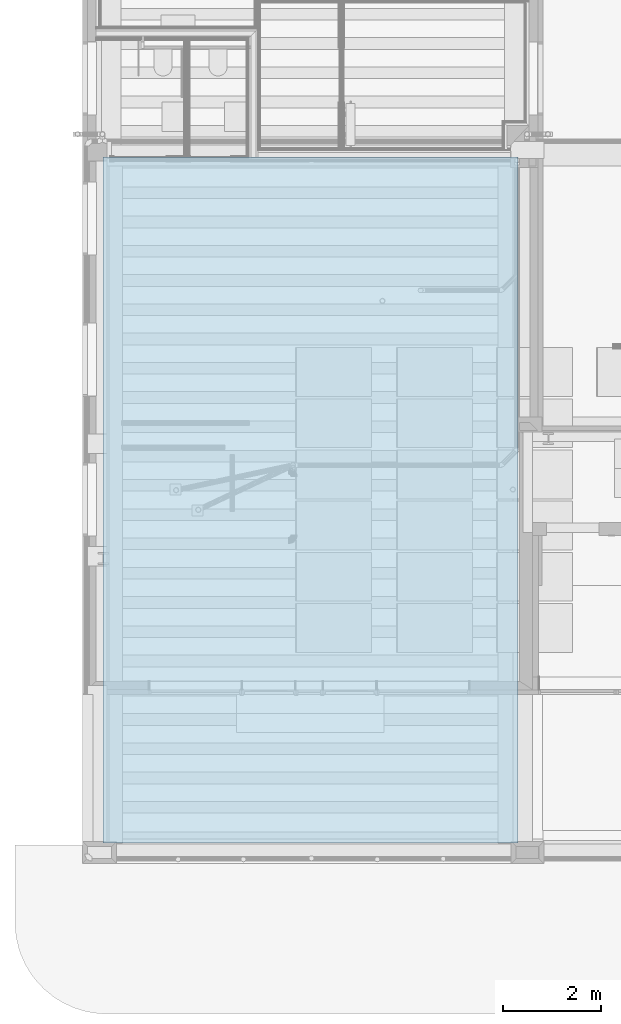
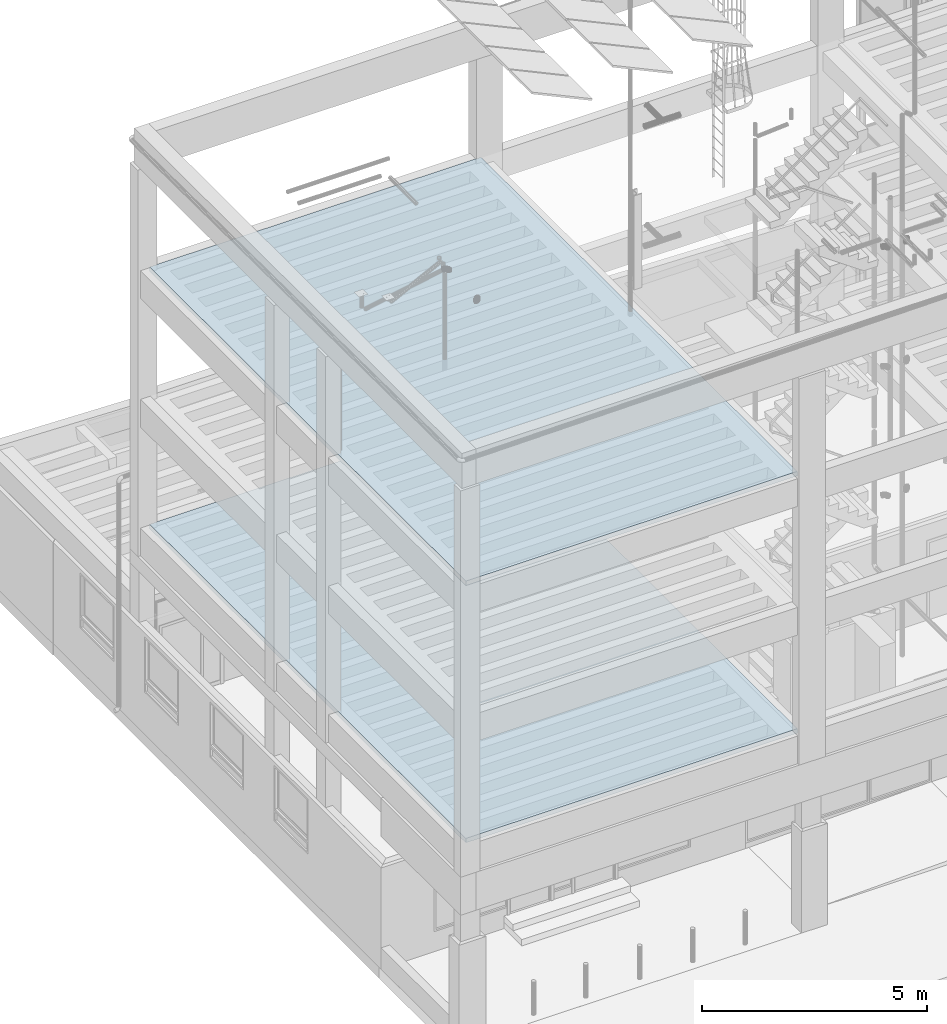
# One storey, part 15 of 108: 2 slabs.
"""IFC2X3 building model written with IfcOpenShell, lengths in metres."""

from ifc_helpers import new_model, entity, si_unit, converted_unit, derived_unit, money_unit, direction, origin_with_axes, place, context, subcontext, project, spatial, faceted_brep, material, type_object, element, save


model = new_model("IFC2X3")

# Units and contexts
model_context = context("Model", 3, precision=1e-05, world=origin_with_axes(), true_north=direction((0.0, 1.0)))
body_context = subcontext(model_context, "Body", "Model", "MODEL_VIEW", scale=1.0)
ifc_project = project(units=[si_unit("LENGTHUNIT", "METRE"), si_unit("AREAUNIT", "SQUARE_METRE"), si_unit("VOLUMEUNIT", "CUBIC_METRE"), si_unit("ABSORBEDDOSEUNIT", "GRAY"), si_unit("AMOUNTOFSUBSTANCEUNIT", "MOLE"), si_unit("DOSEEQUIVALENTUNIT", "SIEVERT"), si_unit("ELECTRICCAPACITANCEUNIT", "FARAD"), si_unit("ELECTRICCHARGEUNIT", "COULOMB"), si_unit("ELECTRICCONDUCTANCEUNIT", "SIEMENS"), si_unit("ELECTRICCURRENTUNIT", "AMPERE"), si_unit("ELECTRICRESISTANCEUNIT", "OHM"), si_unit("ELECTRICVOLTAGEUNIT", "VOLT"), si_unit("ENERGYUNIT", "JOULE"), si_unit("FORCEUNIT", "NEWTON"), si_unit("FREQUENCYUNIT", "HERTZ"), si_unit("ILLUMINANCEUNIT", "LUX"), si_unit("INDUCTANCEUNIT", "HENRY"), si_unit("LUMINOUSFLUXUNIT", "LUMEN"), si_unit("LUMINOUSINTENSITYUNIT", "CANDELA"), si_unit("MAGNETICFLUXDENSITYUNIT", "TESLA"), si_unit("MAGNETICFLUXUNIT", "WEBER"), si_unit("MASSUNIT", "GRAM"), converted_unit("PLANEANGLEUNIT", "degree", entity("IfcReal", 0.0174532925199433), si_unit("PLANEANGLEUNIT", "RADIAN"), dimensions=[0, 0, 0, 0, 0, 0, 0]), si_unit("POWERUNIT", "WATT"), si_unit("PRESSUREUNIT", "PASCAL"), si_unit("RADIOACTIVITYUNIT", "BECQUEREL"), si_unit("SOLIDANGLEUNIT", "STERADIAN"), si_unit("THERMODYNAMICTEMPERATUREUNIT", "KELVIN"), si_unit("TIMEUNIT", "SECOND"), derived_unit("ACCELERATIONUNIT", [(si_unit("LENGTHUNIT", "METRE"), 1), (si_unit("TIMEUNIT", "SECOND"), -2)]), derived_unit("ANGULARVELOCITYUNIT", [(converted_unit("PLANEANGLEUNIT", "degree", entity("IfcReal", 0.0174532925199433), si_unit("PLANEANGLEUNIT", "RADIAN"), dimensions=[0, 0, 0, 0, 0, 0, 0]), 1), (si_unit("TIMEUNIT", "SECOND"), -1)]), derived_unit("CURVATUREUNIT", [(converted_unit("PLANEANGLEUNIT", "degree", entity("IfcReal", 0.0174532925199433), si_unit("PLANEANGLEUNIT", "RADIAN"), dimensions=[0, 0, 0, 0, 0, 0, 0]), 1), (si_unit("LENGTHUNIT", "METRE"), -1)]), derived_unit("DYNAMICVISCOSITYUNIT", [(si_unit("PRESSUREUNIT", "PASCAL"), 1), (si_unit("TIMEUNIT", "SECOND"), 1)]), derived_unit("HEATFLUXDENSITYUNIT", [(si_unit("POWERUNIT", "WATT"), 1), (si_unit("LENGTHUNIT", "METRE"), -2)]), derived_unit("HEATINGVALUEUNIT", [(si_unit("ENERGYUNIT", "JOULE"), 1), (si_unit("MASSUNIT", "GRAM"), -1)]), derived_unit("INTEGERCOUNTRATEUNIT", [(si_unit("TIMEUNIT", "SECOND"), -1)]), derived_unit("IONCONCENTRATIONUNIT", [(si_unit("MASSUNIT", "GRAM"), 1), (si_unit("VOLUMEUNIT", "CUBIC_METRE"), -1)]), derived_unit("ISOTHERMALMOISTURECAPACITYUNIT", [(si_unit("VOLUMEUNIT", "CUBIC_METRE"), 1), (si_unit("MASSUNIT", "GRAM"), -1)]), derived_unit("KINEMATICVISCOSITYUNIT", [(si_unit("AREAUNIT", "SQUARE_METRE"), 1), (si_unit("TIMEUNIT", "SECOND"), -1)]), derived_unit("LINEARFORCEUNIT", [(si_unit("FORCEUNIT", "NEWTON"), 1), (si_unit("LENGTHUNIT", "METRE"), -1)]), derived_unit("LINEARMOMENTUNIT", [(si_unit("FORCEUNIT", "NEWTON"), 1), (si_unit("LENGTHUNIT", "METRE"), -1)]), derived_unit("LINEARSTIFFNESSUNIT", [(si_unit("FORCEUNIT", "NEWTON"), 1), (si_unit("LENGTHUNIT", "METRE"), -1)]), derived_unit("LINEARVELOCITYUNIT", [(si_unit("LENGTHUNIT", "METRE"), 1), (si_unit("TIMEUNIT", "SECOND"), -1)]), derived_unit("LUMINOUSINTENSITYDISTRIBUTIONUNIT", [(si_unit("LUMINOUSINTENSITYUNIT", "CANDELA"), 1), (si_unit("LUMINOUSFLUXUNIT", "LUMEN"), -1)]), derived_unit("MASSDENSITYUNIT", [(si_unit("MASSUNIT", "GRAM"), 1), (si_unit("VOLUMEUNIT", "CUBIC_METRE"), -1)]), derived_unit("MASSFLOWRATEUNIT", [(si_unit("MASSUNIT", "GRAM"), 1), (si_unit("TIMEUNIT", "SECOND"), -1)]), derived_unit("MASSPERLENGTHUNIT", [(si_unit("MASSUNIT", "GRAM"), 1), (si_unit("LENGTHUNIT", "METRE"), -1)]), derived_unit("MODULUSOFELASTICITYUNIT", [(si_unit("FORCEUNIT", "NEWTON"), 1), (si_unit("AREAUNIT", "SQUARE_METRE"), -1)]), derived_unit("MODULUSOFLINEARSUBGRADEREACTIONUNIT", [(si_unit("FORCEUNIT", "NEWTON"), 1), (si_unit("LENGTHUNIT", "METRE"), -2)]), derived_unit("MODULUSOFROTATIONALSUBGRADEREACTIONUNIT", [(si_unit("FORCEUNIT", "NEWTON"), 1), (si_unit("LENGTHUNIT", "METRE"), 1)]), derived_unit("MODULUSOFSUBGRADEREACTIONUNIT", [(si_unit("FORCEUNIT", "NEWTON"), 1), (si_unit("VOLUMEUNIT", "CUBIC_METRE"), -1)]), derived_unit("MOISTUREDIFFUSIVITYUNIT", [(si_unit("VOLUMEUNIT", "CUBIC_METRE"), 1), (si_unit("TIMEUNIT", "SECOND"), -1)]), derived_unit("MOLECULARWEIGHTUNIT", [(si_unit("MASSUNIT", "GRAM"), 1), (si_unit("AMOUNTOFSUBSTANCEUNIT", "MOLE"), -1)]), derived_unit("PLANARFORCEUNIT", [(si_unit("FORCEUNIT", "NEWTON"), 1), (si_unit("LENGTHUNIT", "METRE"), -2)]), derived_unit("ROTATIONALFREQUENCYUNIT", [(si_unit("TIMEUNIT", "SECOND"), -1)]), derived_unit("ROTATIONALMASSUNIT", [(si_unit("MASSUNIT", "GRAM"), 1), (si_unit("LENGTHUNIT", "METRE"), 2)]), derived_unit("ROTATIONALSTIFFNESSUNIT", [(si_unit("FORCEUNIT", "NEWTON"), 1), (si_unit("LENGTHUNIT", "METRE"), 1), (converted_unit("PLANEANGLEUNIT", "degree", entity("IfcReal", 0.0174532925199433), si_unit("PLANEANGLEUNIT", "RADIAN"), dimensions=[0, 0, 0, 0, 0, 0, 0]), -1)]), derived_unit("SECTIONAREAINTEGRALUNIT", [(si_unit("LENGTHUNIT", "METRE"), 5)]), derived_unit("SECTIONMODULUSUNIT", [(si_unit("LENGTHUNIT", "METRE"), 3)]), derived_unit("SHEARMODULUSUNIT", [(si_unit("FORCEUNIT", "NEWTON"), 1), (si_unit("AREAUNIT", "SQUARE_METRE"), -1)]), derived_unit("SOUNDPOWERUNIT", [(si_unit("ENERGYUNIT", "JOULE"), 1), (si_unit("TIMEUNIT", "SECOND"), -1)]), derived_unit("SPECIFICHEATCAPACITYUNIT", [(si_unit("FORCEUNIT", "NEWTON"), 1), (si_unit("MASSUNIT", "GRAM"), -1), (si_unit("THERMODYNAMICTEMPERATUREUNIT", "KELVIN"), -1)]), derived_unit("TEMPERATUREGRADIENTUNIT", [(si_unit("THERMODYNAMICTEMPERATUREUNIT", "KELVIN"), 1), (si_unit("LENGTHUNIT", "METRE"), -1)]), derived_unit("THERMALADMITTANCEUNIT", [(si_unit("POWERUNIT", "WATT"), 1), (si_unit("AREAUNIT", "SQUARE_METRE"), -1), (si_unit("THERMODYNAMICTEMPERATUREUNIT", "KELVIN"), -1)]), derived_unit("THERMALCONDUCTANCEUNIT", [(si_unit("POWERUNIT", "WATT"), 1), (si_unit("LENGTHUNIT", "METRE"), -1), (si_unit("THERMODYNAMICTEMPERATUREUNIT", "KELVIN"), -1)]), derived_unit("THERMALEXPANSIONCOEFFICIENTUNIT", [(si_unit("THERMODYNAMICTEMPERATUREUNIT", "KELVIN"), -1)]), derived_unit("THERMALRESISTANCEUNIT", [(si_unit("AREAUNIT", "SQUARE_METRE"), 1), (si_unit("POWERUNIT", "WATT"), -1)]), derived_unit("THERMALTRANSMITTANCEUNIT", [(si_unit("POWERUNIT", "WATT"), 1), (si_unit("AREAUNIT", "SQUARE_METRE"), -1), (si_unit("THERMODYNAMICTEMPERATUREUNIT", "KELVIN"), -1)]), derived_unit("TORQUEUNIT", [(si_unit("FORCEUNIT", "NEWTON"), 1), (si_unit("LENGTHUNIT", "METRE"), 1)]), derived_unit("VAPORPERMEABILITYUNIT", [(si_unit("MASSUNIT", "GRAM"), 1), (si_unit("TIMEUNIT", "SECOND"), -1)]), derived_unit("VOLUMETRICFLOWRATEUNIT", [(si_unit("VOLUMEUNIT", "CUBIC_METRE"), 1), (si_unit("TIMEUNIT", "SECOND"), -1)]), derived_unit("WARPINGCONSTANTUNIT", [(si_unit("LENGTHUNIT", "METRE"), 6)]), derived_unit("WARPINGMOMENTUNIT", [(si_unit("FORCEUNIT", "NEWTON"), 1), (si_unit("LENGTHUNIT", "METRE"), 2)]), money_unit("GBP")], contexts=[model_context])

# Site, building, storey
site_placement = place(None, origin_with_axes())
site = spatial("IfcSite", under=ifc_project, at=site_placement, Name="Site", CompositionType="ELEMENT")
building_placement = place(site_placement, origin_with_axes())
building = spatial("IfcBuilding", under=site, at=building_placement, Name="Building01", CompositionType="ELEMENT")
storey_placement = place(building_placement, origin_with_axes())
storey = spatial("IfcBuildingStorey", under=building, at=storey_placement, Name="GF", CompositionType="ELEMENT", Elevation=0.0)

# Slabs
ifc_material = material(Name="A_BSUK_Slabs")
slab_type = type_object("IfcSlabType", Name="A-FloorsSlabs A_BSUK_Slabs", PredefinedType="FLOOR")
placement = place(storey_placement, origin_with_axes())
element("IfcSlab", 1, at=placement, inside=storey, type_object=slab_type, material=ifc_material, Name="A-FloorsSlabs A_BSUK_Slabs", ObjectType="CompoundSlabLeaf", context=body_context, shape_type="Brep", body=[
    faceted_brep([(0.42, 14.48, 11.96), (0.42, 14.48, 12.08), (8.925, 14.48, 12.08), (8.925, 14.48, 11.96), (0.42, 0.42, 11.96), (0.42, 0.42, 12.08), (8.925, 0.42, 11.96), (8.925, 0.42, 12.08)], [[[0, 1, 2, 3]], [[4, 5, 1, 0]], [[6, 7, 5, 4]], [[3, 2, 7, 6]], [[1, 5, 7, 2]], [[3, 6, 4, 0]]]),
])
element("IfcSlab", 2, at=placement, inside=storey, type_object=slab_type, material=ifc_material, Name="A-FloorsSlabs A_BSUK_Slabs", ObjectType="CompoundSlabLeaf", context=body_context, shape_type="Brep", body=[
    faceted_brep([(0.42, 14.48, 4.98), (0.42, 14.48, 5.1), (8.925, 14.48, 5.1), (8.925, 14.48, 4.98), (0.42, 0.42, 4.98), (0.42, 0.42, 5.1), (8.925, 0.42, 4.98), (8.925, 0.42, 5.1)], [[[0, 1, 2, 3]], [[4, 5, 1, 0]], [[6, 7, 5, 4]], [[3, 2, 7, 6]], [[1, 5, 7, 2]], [[3, 6, 4, 0]]]),
])

save(model, "model.ifc")
